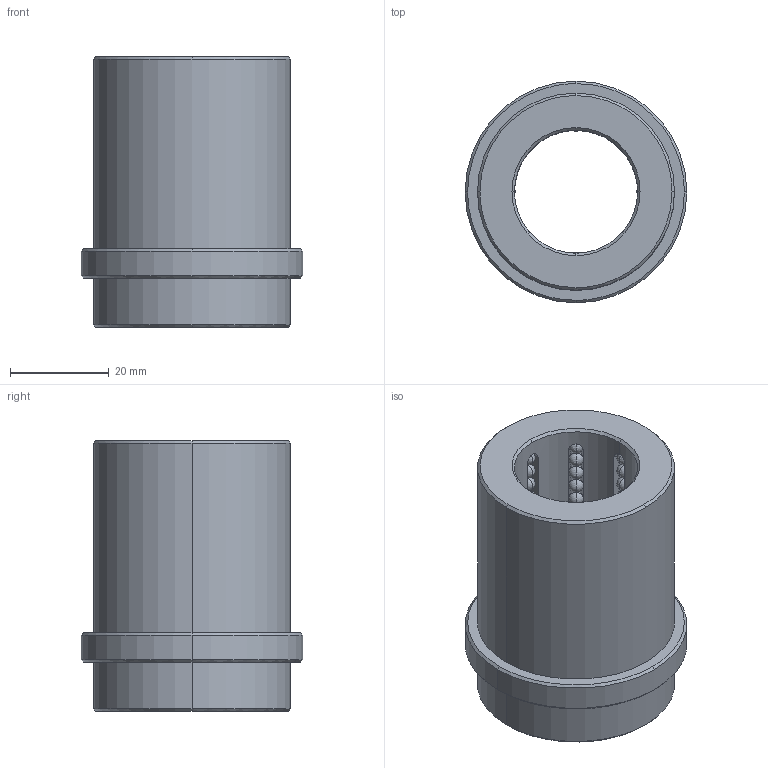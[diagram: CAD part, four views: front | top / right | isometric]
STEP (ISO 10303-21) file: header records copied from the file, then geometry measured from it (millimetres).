
FILE_DESCRIPTION(('CATIA V5 STEP Exchange'),'2;1');
FILE_NAME('C:\Users\Raffaele\Desktop\3D BOLEX\3D FILES CF BOLEX\2-BUSH REF 802\B8022545.stp','2019-06-19T13:55:45+00:00',('none'),('none'),'CATIA Version 5 Release 20 GA (IN-10)','CATIA V5 STEP AP203','none');
FILE_SCHEMA(('CONFIG_CONTROL_DESIGN'));
Length unit declared in the file: millimetre
Products named in the file (1): B8022545
Bounding box: 45 x 45 x 55 mm (x, y, z)
Volume: 42422.6 mm3; surface area: 19070.5 mm2
Topology: 121 solids, 121 shells, 556 faces, 1626 edges, 360 vertices
Faces by surface type: sphere 480, plane 28, cylinder 24, cone 24
Entity records: 10539 total; most frequent: CARTESIAN_POINT 2062, DIRECTION 1738, ORIENTED_EDGE 1332, AXIS2_PLACEMENT_3D 1085, EDGE_CURVE 666, EDGE_LOOP 566, ADVANCED_FACE 556, FACE_OUTER_BOUND 556
